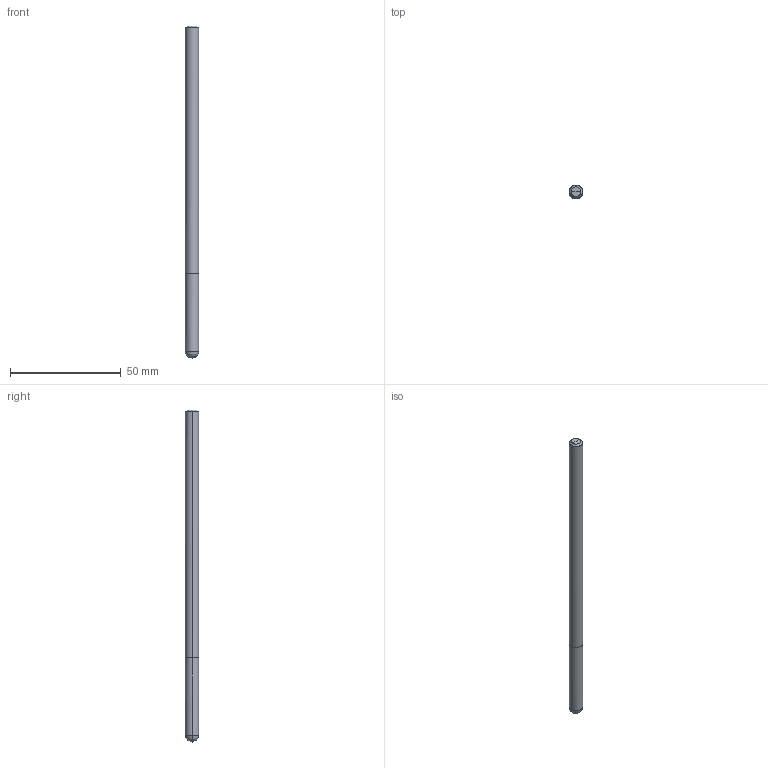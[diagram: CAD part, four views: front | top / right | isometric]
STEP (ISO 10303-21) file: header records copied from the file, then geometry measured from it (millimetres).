
FILE_DESCRIPTION(/* description */ (''),/* implementation_level */ '2;1');
FILE_NAME(/*name*/ '2122-6',/*time_stamp*/'2021-6-28T13:59:19',/*author*/ ('ISBE GmbH'),/*organization*/ ('ISBE GmbH'),/*preprocessor_version*/ 'STEP IO v1.0',/*originating_system*/ '',/*authorisation*/ '');
FILE_SCHEMA (('AUTOMOTIVE_DESIGN'));
Length unit declared in the file: millimetre
Products named in the file (1): Document
Bounding box: 6 x 5.99 x 150 mm (x, y, z)
Surface area: 2906.7 mm2 (no closed solid volume)
Topology: 0 solids, 14 shells, 14 faces, 58 edges, 52 vertices
Faces by surface type: bspline 14
Entity records: 1291 total; most frequent: CARTESIAN_POINT 1026, VERTEX_POINT 48, EDGE_CURVE 48, ORIENTED_EDGE 48, DIRECTION 16, EDGE_LOOP 14, FACE_OUTER_BOUND 14, ADVANCED_FACE 14
